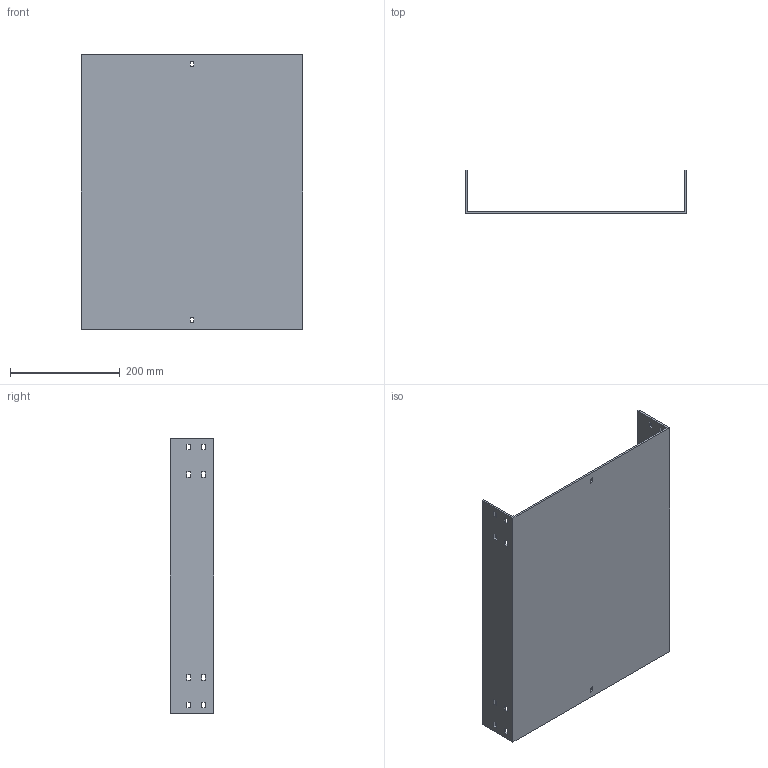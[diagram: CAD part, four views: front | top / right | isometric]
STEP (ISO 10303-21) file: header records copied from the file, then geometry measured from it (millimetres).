
FILE_DESCRIPTION (( 'STEP AP214' ), '1' );
FILE_NAME ('03F7C400.step', '2025-02-21T13:33:08', ( '' ), ( '' ), 'SwSTEP 2.0', 'SolidWorks 2023', '' );
FILE_SCHEMA (( 'AUTOMOTIVE_DESIGN' ));
Length unit declared in the file: millimetre
Products named in the file (1): 03F7C400
Bounding box: 404 x 79 x 500 mm (x, y, z)
Volume: 966920.5 mm3; surface area: 562032 mm2
Topology: 1 solids, 1 shells, 82 faces, 240 edges, 160 vertices
Faces by surface type: plane 82
Entity records: 2759 total; most frequent: CARTESIAN_POINT 483, ORIENTED_EDGE 480, DIRECTION 406, LINE 240, EDGE_CURVE 240, VECTOR 240, VERTEX_POINT 160, EDGE_LOOP 118
